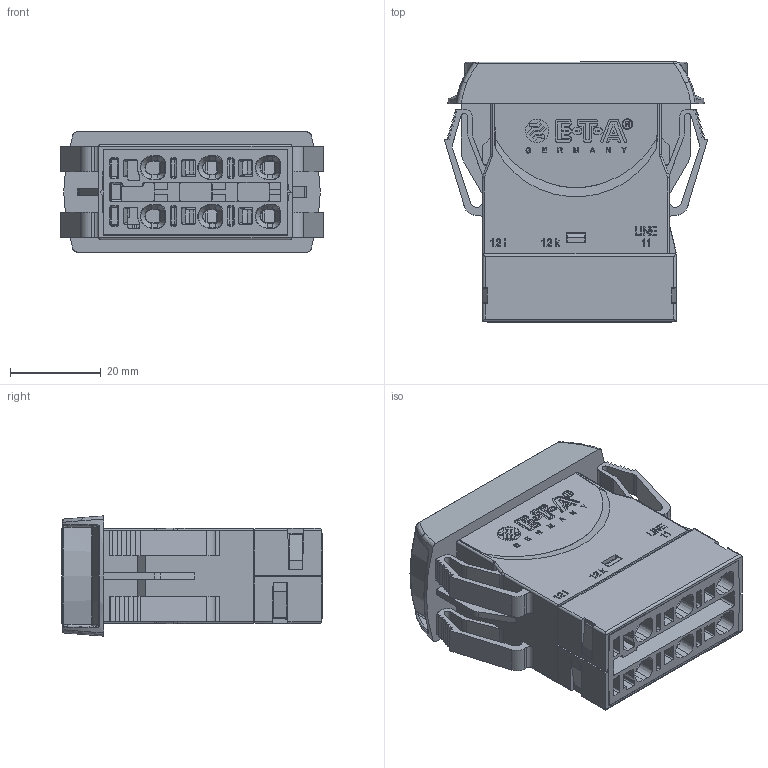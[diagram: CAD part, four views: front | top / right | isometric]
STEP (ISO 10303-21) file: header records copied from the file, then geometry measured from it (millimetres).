
FILE_DESCRIPTION((''),'2;1');
FILE_NAME('DUMMY-3120-N32F-PT','2019-08-07T11:24:57',('wschmidt'),(''),'CREO PARAMETRIC BY PTC INC, 2017260','CREO PARAMETRIC BY PTC INC, 2017260','');
FILE_SCHEMA(('AUTOMOTIVE_DESIGN { 1 0 10303 214 1 1 1 1 }'));
Products named in the file (1): DUMMY-3120-N32F-PT
Bounding box: 57.8 x 57.17 x 26.43 mm (x, y, z)
Volume: 44230.6 mm3; surface area: 29287.8 mm2
Topology: 1 solids, 14 shells, 3669 faces, 9906 edges, 6342 vertices
Faces by surface type: plane 1823, extrusion 834, cylinder 574, bspline 238, sphere 74, cone 67, torus 59
Entity records: 134982 total; most frequent: CARTESIAN_POINT 47415, ORIENTED_EDGE 19804, DIRECTION 14366, EDGE_CURVE 9902, VECTOR 7116, VERTEX_POINT 6342, LINE 6282, EDGE_LOOP 3886
